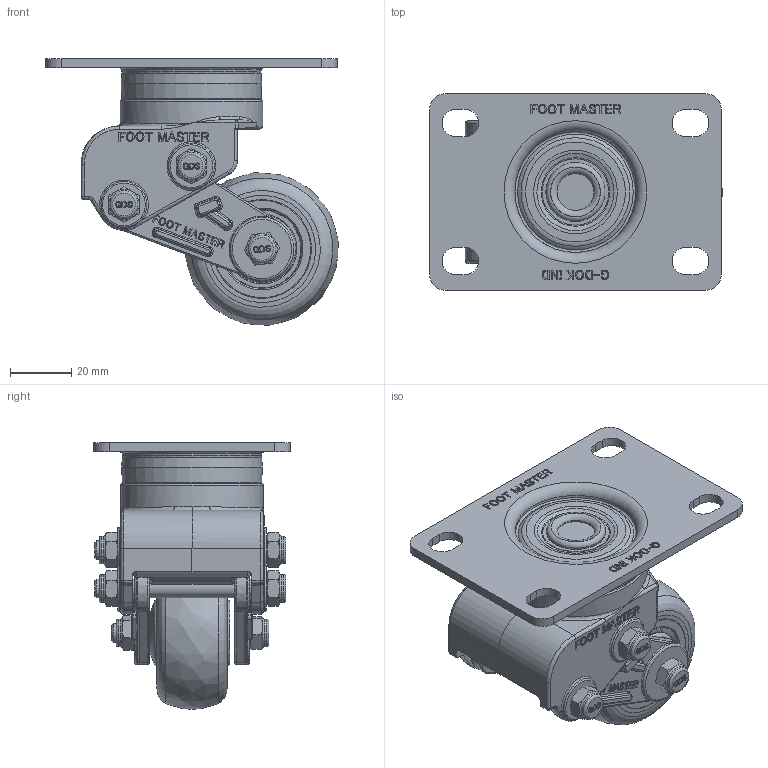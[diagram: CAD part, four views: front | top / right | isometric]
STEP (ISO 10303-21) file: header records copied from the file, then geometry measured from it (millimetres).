
FILE_DESCRIPTION(/* description */ (''),/* implementation_level */ '2;1');
FILE_NAME(/* name */ 'C:\Users\admin\Desktop\JYS\개발품\상세설계_20220328\홈페이지용 도면\GDSA-50-ASF-EUS-PUS.stp',/* time_stamp */ '2023-03-08T15:47:56+09:00',/* author */ ('admin'),/* organization */ (''),/* preprocessor_version */ 'ST-DEVELOPER v18.1',/* originating_system */ 'Autodesk Inventor 2021',/* authorisation */ '');
FILE_SCHEMA (('AUTOMOTIVE_DESIGN { 1 0 10303 214 3 1 1 }'));
Products named in the file (1): GDS-50_ASF-AGV,AMR_(US)_Shrinkwrap_1
Bounding box: 95.37 x 64 x 86.87 mm (x, y, z)
Volume: 125765.3 mm3; surface area: 48844.2 mm2
Topology: 1 solids, 1 shells, 1954 faces, 5163 edges, 3323 vertices
Faces by surface type: plane 768, bspline 648, cylinder 248, cone 155, torus 123, sphere 12
Full cylindrical faces by diameter (mm): 6 x5, 8.8 x3, 9 x6, 12 x1, 17.216 x2, 18 x1, 19.3 x1, 20 x2, 22 x2, 22.784 x2, 30 x1, 42.5 x1, 46.5 x1
Entity records: 67623 total; most frequent: CARTESIAN_POINT 21316, ORIENTED_EDGE 10294, DIRECTION 7408, EDGE_CURVE 5147, VERTEX_POINT 3323, LINE 2512, VECTOR 2512, AXIS2_PLACEMENT_3D 2448
